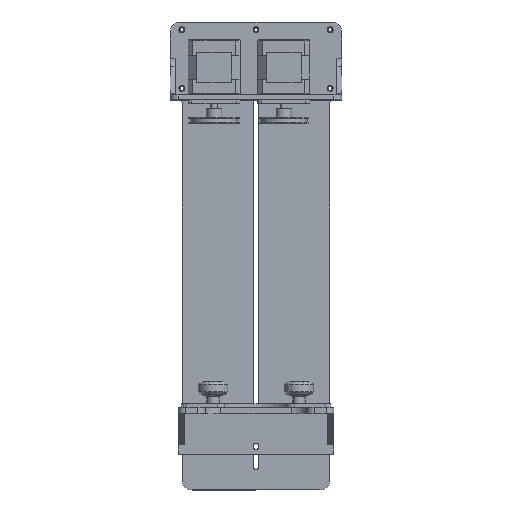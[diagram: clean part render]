
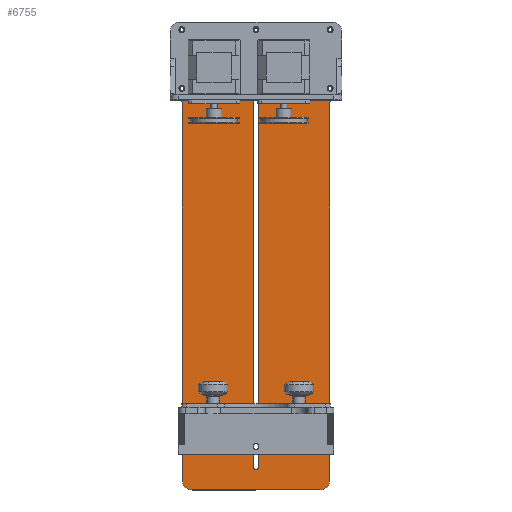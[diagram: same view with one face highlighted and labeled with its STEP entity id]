
A CAD part, top view. The second image highlights one B-rep face of the part: STEP entity #6755.
In plain terms, the highlighted planar face has unit normal (0, 0, 1).
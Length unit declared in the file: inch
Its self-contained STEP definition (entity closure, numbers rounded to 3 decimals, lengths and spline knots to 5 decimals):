
#261=FACE_BOUND('',#950,.T.);
#262=FACE_BOUND('',#951,.T.);
#263=FACE_BOUND('',#952,.T.);
#264=FACE_BOUND('',#953,.T.);
#265=FACE_BOUND('',#954,.T.);
#266=FACE_BOUND('',#955,.T.);
#386=PLANE('',#7433);
#584=FACE_OUTER_BOUND('',#949,.T.);
#949=EDGE_LOOP('',(#4734,#4735,#4736,#4737,#4738,#4739,#4740,#4741,#4742,
#4743,#4744,#4745,#4746,#4747));
#950=EDGE_LOOP('',(#4748,#4749));
#951=EDGE_LOOP('',(#4750,#4751));
#952=EDGE_LOOP('',(#4752,#4753));
#953=EDGE_LOOP('',(#4754,#4755));
#954=EDGE_LOOP('',(#4756,#4757));
#955=EDGE_LOOP('',(#4758,#4759,#4760,#4761));
#1400=LINE('',#10506,#1941);
#1407=LINE('',#10526,#1948);
#1418=LINE('',#10570,#1959);
#1421=LINE('',#10578,#1962);
#1430=LINE('',#10620,#1971);
#1433=LINE('',#10628,#1974);
#1435=LINE('',#10632,#1976);
#1436=LINE('',#10637,#1977);
#1438=LINE('',#10640,#1979);
#1439=LINE('',#10642,#1980);
#1941=VECTOR('',#8259,0.3937);
#1948=VECTOR('',#8278,0.3937);
#1959=VECTOR('',#8317,0.3937);
#1962=VECTOR('',#8326,0.3937);
#1971=VECTOR('',#8375,0.3937);
#1974=VECTOR('',#8384,0.3937);
#1976=VECTOR('',#8388,0.3937);
#1977=VECTOR('',#8395,0.3937);
#1979=VECTOR('',#8399,0.3937);
#1980=VECTOR('',#8402,0.3937);
#2477=CIRCLE('',#7382,0.095);
#2478=CIRCLE('',#7384,0.3125);
#2490=CIRCLE('',#7399,0.3125);
#2491=CIRCLE('',#7402,0.3125);
#2492=CIRCLE('',#7405,0.3125);
#2493=CIRCLE('',#7407,0.064);
#2494=CIRCLE('',#7408,0.064);
#2495=CIRCLE('',#7410,0.064);
#2496=CIRCLE('',#7411,0.064);
#2497=CIRCLE('',#7413,0.064);
#2498=CIRCLE('',#7414,0.064);
#2499=CIRCLE('',#7416,0.064);
#2500=CIRCLE('',#7417,0.064);
#2501=CIRCLE('',#7419,0.064);
#2502=CIRCLE('',#7420,0.064);
#2503=CIRCLE('',#7422,0.125);
#2504=CIRCLE('',#7425,0.125);
#2505=CIRCLE('',#7429,0.095);
#2914=VERTEX_POINT('',#10503);
#2915=VERTEX_POINT('',#10505);
#2916=VERTEX_POINT('',#10509);
#2917=VERTEX_POINT('',#10513);
#2918=VERTEX_POINT('',#10514);
#2922=VERTEX_POINT('',#10524);
#2939=VERTEX_POINT('',#10562);
#2940=VERTEX_POINT('',#10563);
#2941=VERTEX_POINT('',#10568);
#2942=VERTEX_POINT('',#10572);
#2943=VERTEX_POINT('',#10576);
#2944=VERTEX_POINT('',#10580);
#2945=VERTEX_POINT('',#10584);
#2946=VERTEX_POINT('',#10585);
#2947=VERTEX_POINT('',#10590);
#2948=VERTEX_POINT('',#10591);
#2949=VERTEX_POINT('',#10596);
#2950=VERTEX_POINT('',#10597);
#2951=VERTEX_POINT('',#10602);
#2952=VERTEX_POINT('',#10603);
#2953=VERTEX_POINT('',#10608);
#2954=VERTEX_POINT('',#10609);
#2955=VERTEX_POINT('',#10614);
#2956=VERTEX_POINT('',#10618);
#2957=VERTEX_POINT('',#10622);
#2958=VERTEX_POINT('',#10624);
#2959=VERTEX_POINT('',#10630);
#2960=VERTEX_POINT('',#10636);
#3610=EDGE_CURVE('',#2915,#2914,#1400,.T.);
#3613=EDGE_CURVE('',#2914,#2916,#2477,.T.);
#3614=EDGE_CURVE('',#2917,#2918,#2478,.T.);
#3620=EDGE_CURVE('',#2917,#2922,#1407,.T.);
#3638=EDGE_CURVE('',#2939,#2940,#2490,.T.);
#3642=EDGE_CURVE('',#2939,#2941,#1418,.T.);
#3643=EDGE_CURVE('',#2942,#2941,#2491,.T.);
#3646=EDGE_CURVE('',#2942,#2943,#1421,.T.);
#3647=EDGE_CURVE('',#2944,#2922,#2492,.T.);
#3649=EDGE_CURVE('',#2945,#2946,#2493,.T.);
#3650=EDGE_CURVE('',#2946,#2945,#2494,.T.);
#3652=EDGE_CURVE('',#2947,#2948,#2495,.T.);
#3653=EDGE_CURVE('',#2948,#2947,#2496,.T.);
#3655=EDGE_CURVE('',#2949,#2950,#2497,.T.);
#3656=EDGE_CURVE('',#2950,#2949,#2498,.T.);
#3658=EDGE_CURVE('',#2951,#2952,#2499,.T.);
#3659=EDGE_CURVE('',#2952,#2951,#2500,.T.);
#3661=EDGE_CURVE('',#2953,#2954,#2501,.T.);
#3662=EDGE_CURVE('',#2954,#2953,#2502,.T.);
#3665=EDGE_CURVE('',#2955,#2943,#2503,.T.);
#3667=EDGE_CURVE('',#2955,#2956,#1430,.T.);
#3669=EDGE_CURVE('',#2957,#2958,#2504,.T.);
#3671=EDGE_CURVE('',#2957,#2940,#1433,.T.);
#3673=EDGE_CURVE('',#2916,#2959,#1435,.T.);
#3674=EDGE_CURVE('',#2959,#2915,#2505,.T.);
#3675=EDGE_CURVE('',#2960,#2958,#1436,.T.);
#3677=EDGE_CURVE('',#2944,#2960,#1438,.T.);
#3678=EDGE_CURVE('',#2956,#2918,#1439,.T.);
#4734=ORIENTED_EDGE('',*,*,#3614,.F.);
#4735=ORIENTED_EDGE('',*,*,#3620,.T.);
#4736=ORIENTED_EDGE('',*,*,#3647,.F.);
#4737=ORIENTED_EDGE('',*,*,#3677,.T.);
#4738=ORIENTED_EDGE('',*,*,#3675,.T.);
#4739=ORIENTED_EDGE('',*,*,#3669,.F.);
#4740=ORIENTED_EDGE('',*,*,#3671,.T.);
#4741=ORIENTED_EDGE('',*,*,#3638,.F.);
#4742=ORIENTED_EDGE('',*,*,#3642,.T.);
#4743=ORIENTED_EDGE('',*,*,#3643,.F.);
#4744=ORIENTED_EDGE('',*,*,#3646,.T.);
#4745=ORIENTED_EDGE('',*,*,#3665,.F.);
#4746=ORIENTED_EDGE('',*,*,#3667,.T.);
#4747=ORIENTED_EDGE('',*,*,#3678,.T.);
#4748=ORIENTED_EDGE('',*,*,#3649,.T.);
#4749=ORIENTED_EDGE('',*,*,#3650,.T.);
#4750=ORIENTED_EDGE('',*,*,#3652,.T.);
#4751=ORIENTED_EDGE('',*,*,#3653,.T.);
#4752=ORIENTED_EDGE('',*,*,#3655,.T.);
#4753=ORIENTED_EDGE('',*,*,#3656,.T.);
#4754=ORIENTED_EDGE('',*,*,#3658,.T.);
#4755=ORIENTED_EDGE('',*,*,#3659,.T.);
#4756=ORIENTED_EDGE('',*,*,#3661,.T.);
#4757=ORIENTED_EDGE('',*,*,#3662,.T.);
#4758=ORIENTED_EDGE('',*,*,#3610,.T.);
#4759=ORIENTED_EDGE('',*,*,#3613,.T.);
#4760=ORIENTED_EDGE('',*,*,#3673,.T.);
#4761=ORIENTED_EDGE('',*,*,#3674,.T.);
#6755=ADVANCED_FACE('',(#584,#261,#262,#263,#264,#265,#266),#386,.T.);
#7382=AXIS2_PLACEMENT_3D('',#10511,#8264,#8265);
#7384=AXIS2_PLACEMENT_3D('',#10515,#8268,#8269);
#7399=AXIS2_PLACEMENT_3D('',#10564,#8310,#8311);
#7402=AXIS2_PLACEMENT_3D('',#10573,#8320,#8321);
#7405=AXIS2_PLACEMENT_3D('',#10581,#8329,#8330);
#7407=AXIS2_PLACEMENT_3D('',#10586,#8334,#8335);
#7408=AXIS2_PLACEMENT_3D('',#10587,#8336,#8337);
#7410=AXIS2_PLACEMENT_3D('',#10592,#8341,#8342);
#7411=AXIS2_PLACEMENT_3D('',#10593,#8343,#8344);
#7413=AXIS2_PLACEMENT_3D('',#10598,#8348,#8349);
#7414=AXIS2_PLACEMENT_3D('',#10599,#8350,#8351);
#7416=AXIS2_PLACEMENT_3D('',#10604,#8355,#8356);
#7417=AXIS2_PLACEMENT_3D('',#10605,#8357,#8358);
#7419=AXIS2_PLACEMENT_3D('',#10610,#8362,#8363);
#7420=AXIS2_PLACEMENT_3D('',#10611,#8364,#8365);
#7422=AXIS2_PLACEMENT_3D('',#10616,#8370,#8371);
#7425=AXIS2_PLACEMENT_3D('',#10625,#8379,#8380);
#7429=AXIS2_PLACEMENT_3D('',#10634,#8391,#8392);
#7433=AXIS2_PLACEMENT_3D('',#10643,#8403,#8404);
#8259=DIRECTION('',(0.,-1.,0.));
#8264=DIRECTION('center_axis',(0.,0.,-1.));
#8265=DIRECTION('ref_axis',(1.,0.,0.));
#8268=DIRECTION('center_axis',(0.,0.,-1.));
#8269=DIRECTION('ref_axis',(0.707,0.707,0.));
#8278=DIRECTION('',(-1.,0.,0.));
#8310=DIRECTION('center_axis',(0.,0.,-1.));
#8311=DIRECTION('ref_axis',(-0.707,-0.707,0.));
#8317=DIRECTION('',(1.,0.,0.));
#8320=DIRECTION('center_axis',(0.,0.,-1.));
#8321=DIRECTION('ref_axis',(0.707,-0.707,0.));
#8326=DIRECTION('',(0.,1.,0.));
#8329=DIRECTION('center_axis',(0.,0.,-1.));
#8330=DIRECTION('ref_axis',(-0.707,0.707,0.));
#8334=DIRECTION('center_axis',(0.,0.,-1.));
#8335=DIRECTION('ref_axis',(1.,0.,0.));
#8336=DIRECTION('center_axis',(0.,0.,-1.));
#8337=DIRECTION('ref_axis',(1.,0.,0.));
#8341=DIRECTION('center_axis',(0.,0.,-1.));
#8342=DIRECTION('ref_axis',(1.,0.,0.));
#8343=DIRECTION('center_axis',(0.,0.,-1.));
#8344=DIRECTION('ref_axis',(1.,0.,0.));
#8348=DIRECTION('center_axis',(0.,0.,-1.));
#8349=DIRECTION('ref_axis',(1.,0.,0.));
#8350=DIRECTION('center_axis',(0.,0.,-1.));
#8351=DIRECTION('ref_axis',(1.,0.,0.));
#8355=DIRECTION('center_axis',(0.,0.,-1.));
#8356=DIRECTION('ref_axis',(1.,0.,0.));
#8357=DIRECTION('center_axis',(0.,0.,-1.));
#8358=DIRECTION('ref_axis',(1.,0.,0.));
#8362=DIRECTION('center_axis',(0.,0.,-1.));
#8363=DIRECTION('ref_axis',(1.,0.,0.));
#8364=DIRECTION('center_axis',(0.,0.,-1.));
#8365=DIRECTION('ref_axis',(1.,0.,0.));
#8370=DIRECTION('center_axis',(0.,0.,1.));
#8371=DIRECTION('ref_axis',(-0.707,0.707,0.));
#8375=DIRECTION('',(1.,0.,0.));
#8379=DIRECTION('center_axis',(0.,0.,1.));
#8380=DIRECTION('ref_axis',(0.707,0.707,0.));
#8384=DIRECTION('',(0.,-1.,0.));
#8388=DIRECTION('',(0.,1.,0.));
#8391=DIRECTION('center_axis',(0.,0.,-1.));
#8392=DIRECTION('ref_axis',(-1.,0.,0.));
#8395=DIRECTION('',(1.,0.,0.));
#8399=DIRECTION('',(0.,-1.,0.));
#8402=DIRECTION('',(0.,1.,0.));
#8403=DIRECTION('center_axis',(0.,0.,1.));
#8404=DIRECTION('ref_axis',(1.,0.,0.));
#10503=CARTESIAN_POINT('',(2.4572,0.75,0.5));
#10505=CARTESIAN_POINT('',(2.4572,12.75,0.5));
#10506=CARTESIAN_POINT('',(2.4572,4.24323,0.5));
#10509=CARTESIAN_POINT('',(2.2672,0.75,0.5));
#10511=CARTESIAN_POINT('Origin',(2.3622,0.75,0.5));
#10513=CARTESIAN_POINT('',(4.7997,15.,0.5));
#10514=CARTESIAN_POINT('',(5.1122,14.6875,0.5));
#10515=CARTESIAN_POINT('Origin',(4.7997,14.6875,0.5));
#10524=CARTESIAN_POINT('',(-0.0753,15.,0.5));
#10526=CARTESIAN_POINT('',(5.1122,15.,0.5));
#10562=CARTESIAN_POINT('',(0.3125,0.,0.5));
#10563=CARTESIAN_POINT('',(0.,0.3125,0.5));
#10564=CARTESIAN_POINT('Origin',(0.3125,0.3125,0.5));
#10568=CARTESIAN_POINT('',(4.41191,0.,0.5));
#10570=CARTESIAN_POINT('',(0.,0.,0.5));
#10572=CARTESIAN_POINT('',(4.72441,0.3125,0.5));
#10573=CARTESIAN_POINT('Origin',(4.41191,0.3125,0.5));
#10576=CARTESIAN_POINT('',(4.72441,12.375,0.5));
#10578=CARTESIAN_POINT('',(4.72441,0.,0.5));
#10580=CARTESIAN_POINT('',(-0.3878,14.6875,0.5));
#10581=CARTESIAN_POINT('Origin',(-0.0753,14.6875,0.5));
#10584=CARTESIAN_POINT('',(0.0512,14.75048,0.5));
#10585=CARTESIAN_POINT('',(-0.0768,14.75048,0.5));
#10586=CARTESIAN_POINT('Origin',(-0.0128,14.75048,0.5));
#10587=CARTESIAN_POINT('Origin',(-0.0128,14.75048,0.5));
#10590=CARTESIAN_POINT('',(4.8012,12.875,0.5));
#10591=CARTESIAN_POINT('',(4.6732,12.875,0.5));
#10592=CARTESIAN_POINT('Origin',(4.7372,12.875,0.5));
#10593=CARTESIAN_POINT('Origin',(4.7372,12.875,0.5));
#10596=CARTESIAN_POINT('',(4.8012,14.75048,0.5));
#10597=CARTESIAN_POINT('',(4.6732,14.75048,0.5));
#10598=CARTESIAN_POINT('Origin',(4.7372,14.75048,0.5));
#10599=CARTESIAN_POINT('Origin',(4.7372,14.75048,0.5));
#10602=CARTESIAN_POINT('',(2.4262,14.75048,0.5));
#10603=CARTESIAN_POINT('',(2.2982,14.75048,0.5));
#10604=CARTESIAN_POINT('Origin',(2.3622,14.75048,0.5));
#10605=CARTESIAN_POINT('Origin',(2.3622,14.75048,0.5));
#10608=CARTESIAN_POINT('',(0.0512,12.875,0.5));
#10609=CARTESIAN_POINT('',(-0.0768,12.875,0.5));
#10610=CARTESIAN_POINT('Origin',(-0.0128,12.875,0.5));
#10611=CARTESIAN_POINT('Origin',(-0.0128,12.875,0.5));
#10614=CARTESIAN_POINT('',(4.84941,12.5,0.5));
#10616=CARTESIAN_POINT('Origin',(4.84941,12.375,0.5));
#10618=CARTESIAN_POINT('',(5.1122,12.5,0.5));
#10620=CARTESIAN_POINT('',(4.72441,12.5,0.5));
#10622=CARTESIAN_POINT('',(0.,12.375,0.5));
#10624=CARTESIAN_POINT('',(-0.125,12.5,0.5));
#10625=CARTESIAN_POINT('Origin',(-0.125,12.375,0.5));
#10628=CARTESIAN_POINT('',(0.,12.5,0.5));
#10630=CARTESIAN_POINT('',(2.2672,12.75,0.5));
#10632=CARTESIAN_POINT('',(2.2672,10.24323,0.5));
#10634=CARTESIAN_POINT('Origin',(2.3622,12.75,0.5));
#10636=CARTESIAN_POINT('',(-0.3878,12.5,0.5));
#10637=CARTESIAN_POINT('',(-0.3878,12.5,0.5));
#10640=CARTESIAN_POINT('',(-0.3878,15.,0.5));
#10642=CARTESIAN_POINT('',(5.1122,12.5,0.5));
#10643=CARTESIAN_POINT('Origin',(2.3622,7.73646,0.5));
